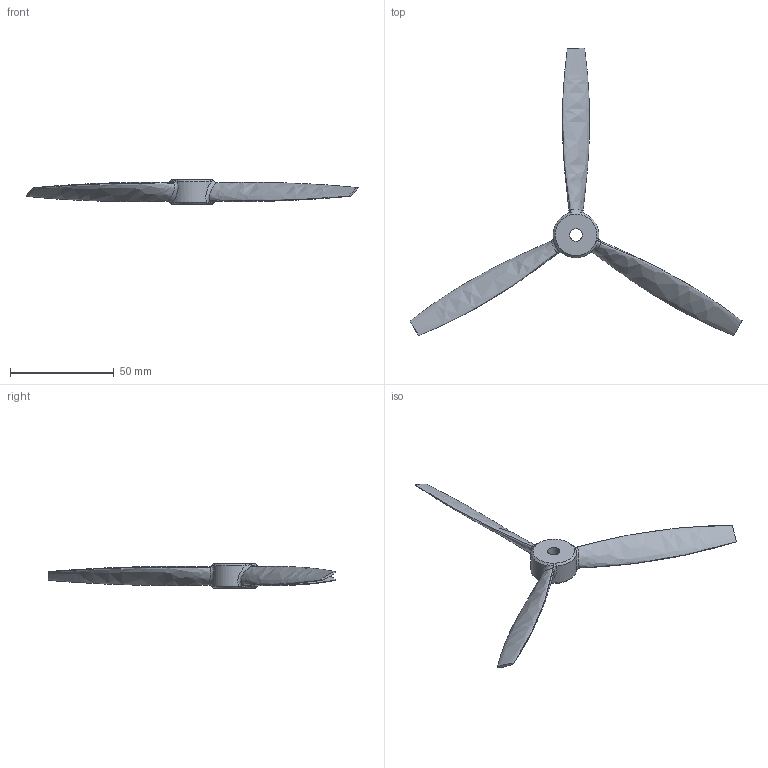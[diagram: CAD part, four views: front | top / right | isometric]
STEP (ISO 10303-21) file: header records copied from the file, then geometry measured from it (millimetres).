
FILE_DESCRIPTION((''),'2;1');
FILE_NAME('C-119_3BLADE_PROP','2012-05-16T',('Xazopaido'),(''),'PRO/ENGINEER BY PARAMETRIC TECHNOLOGY CORPORATION, 2010480','PRO/ENGINEER BY PARAMETRIC TECHNOLOGY CORPORATION, 2010480','');
FILE_SCHEMA(('CONFIG_CONTROL_DESIGN'));
Length unit declared in the file: millimetre
Products named in the file (1): C-119_3BLADE_PROP
Bounding box: 160.04 x 138.6 x 12.01 mm (x, y, z)
Volume: 12401.2 mm3; surface area: 8348 mm2
Topology: 1 solids, 1 shells, 40 faces, 90 edges, 52 vertices
Faces by surface type: bspline 24, cone 6, plane 5, cylinder 5
Entity records: 2566 total; most frequent: CARTESIAN_POINT 1820, ORIENTED_EDGE 180, EDGE_CURVE 90, DIRECTION 80, B_SPLINE_CURVE_WITH_KNOTS 56, VERTEX_POINT 52, EDGE_LOOP 42, FACE_OUTER_BOUND 40
